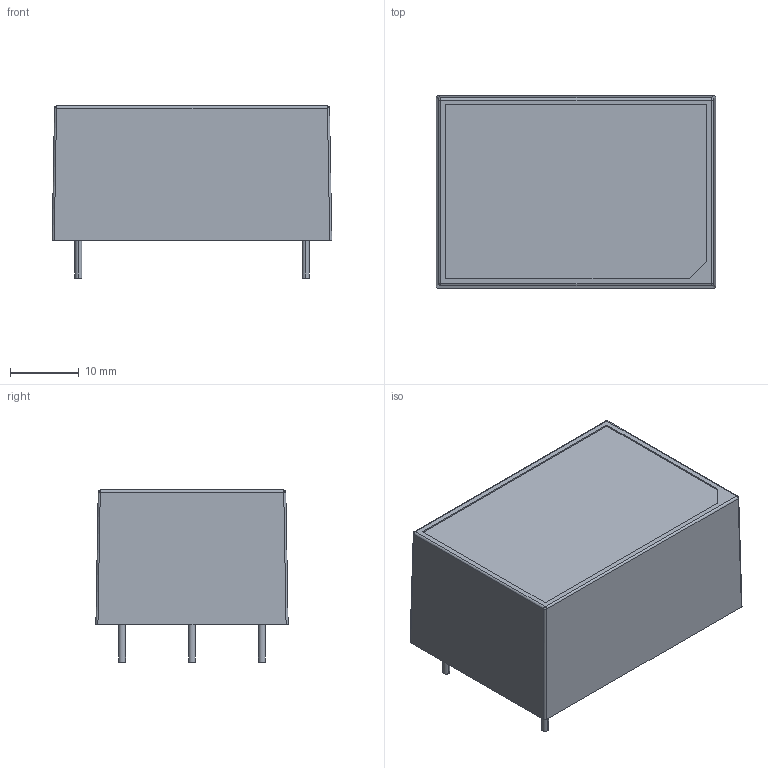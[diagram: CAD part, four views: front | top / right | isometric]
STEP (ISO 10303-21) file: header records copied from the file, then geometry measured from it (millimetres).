
FILE_DESCRIPTION (( 'STEP AP203' ), '1' );
FILE_NAME ('CFM12SXXX-E ¦¨«~¹Ï (M-B112-F)(V1.0)-1130703.STEP', '2024-08-20T00:30:17', ( 'cincon' ), ( '' ), 'SwSTEP 2.0', 'SolidWorks 2020', '' );
FILE_SCHEMA (( 'CONFIG_CONTROL_DESIGN' ));
Length unit declared in the file: millimetre
Products named in the file (7): CFM12SXXX-E 成品圖 (M-B112-F)(V1.0)-1130703; CFM12S CASE G5689110106灌膠示意圖(03) 2020,04,21; CFM12 Axial0_4_10K-1060316; CFM12S變壓器示意圖 2018,10,29; CFM12 電晶體示意圖 2018,10,29; CFM12陶瓷電容示意圖 2018,10,29; CFM12S PCB(V1.4)-1110712
Assembly tree (6 placements, depth 2):
  CFM12SXXX-E 成品圖 (M-B112-F)(V1.0)-1130703
    CFM12S PCB(V1.4)-1110712
    CFM12 Axial0_4_10K-1060316
    CFM12 電晶體示意圖 2018,10,29
    CFM12陶瓷電容示意圖 2018,10,29
    CFM12S變壓器示意圖 2018,10,29
    CFM12S CASE G5689110106灌膠示意圖(03) 2020,04,21
Bounding box: 40.64 x 27.94 x 25 mm (x, y, z)
Volume: 28373.4 mm3; surface area: 17367.8 mm2
Topology: 16 solids, 16 shells, 488 faces, 1211 edges, 766 vertices
Faces by surface type: plane 229, cylinder 130, bspline 64, torus 57, sphere 8
Entity records: 17282 total; most frequent: CARTESIAN_POINT 5085, ORIENTED_EDGE 2406, DIRECTION 2392, EDGE_CURVE 1203, AXIS2_PLACEMENT_3D 881, VERTEX_POINT 766, LINE 630, VECTOR 630
